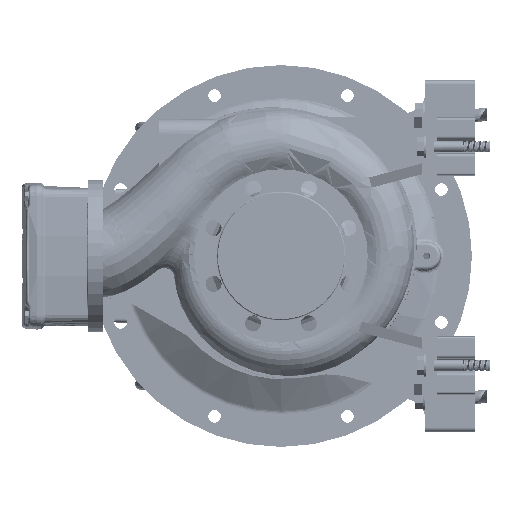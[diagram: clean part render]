
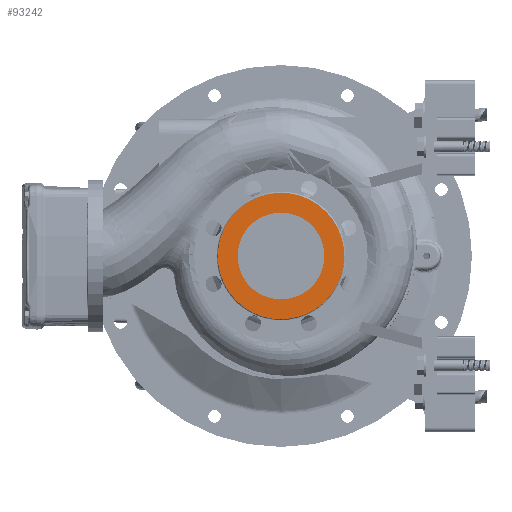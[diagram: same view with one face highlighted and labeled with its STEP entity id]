
A CAD part, left-side view. The second image highlights one B-rep face of the part: STEP entity #93242.
In plain terms, the highlighted planar face has unit normal (-1, 0, 0).
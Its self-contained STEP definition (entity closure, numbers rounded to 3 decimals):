
#309 = CARTESIAN_POINT ( 'NONE',  ( -140., -50.883, -76.151 ) ) ;
#715 = CARTESIAN_POINT ( 'NONE',  ( -140., 0., -62.5 ) ) ;
#2592 = AXIS2_PLACEMENT_3D ( 'NONE', #85408, #17370, #101494 ) ;
#6172 = B_SPLINE_CURVE_WITH_KNOTS ( 'NONE', 3,
 ( #57279, #111901, #43865, #30445, #30611, #109255, #140526, #48258, #153966, #100216, #141405, #33946, #75149, #129741, #89437, #44759, #34837, #71601, #142291, #155725, #112796, #126217, #116323, #127977 ),
 .UNSPECIFIED., .F., .F.,
 ( 4, 1, 1, 1, 1, 1, 1, 1, 1, 1, 1, 1, 1, 1, 1, 1, 1, 1, 1, 1, 1, 4 ),
 ( 0., 0.009, 0.018, 0.027, 0.036, 0.045, 0.058, 0.072, 0.081, 0.09, 0.099, 0.108, 0.126, 0.143, 0.161, 0.179, 0.197, 0.215, 0.233, 0.251, 0.269, 0.287 ),
 .UNSPECIFIED. ) ;
#8793 = EDGE_CURVE ( 'NONE', #176708, #79074, #154203, .T. ) ;
#11998 = CARTESIAN_POINT ( 'NONE',  ( -140., 90.707, -8.934 ) ) ;
#12873 = CARTESIAN_POINT ( 'NONE',  ( -140., 84.208, -34.88 ) ) ;
#13759 = CARTESIAN_POINT ( 'NONE',  ( -140., 91., 0. ) ) ;
#17370 = DIRECTION ( 'NONE',  ( -1., 0., 0. ) ) ;
#18954 = ORIENTED_EDGE ( 'NONE', *, *, #119524, .F. ) ;
#21557 = PLANE ( 'NONE',  #149359 ) ;
#25344 = CARTESIAN_POINT ( 'NONE',  ( -140., 91., 0. ) ) ;
#25450 = CARTESIAN_POINT ( 'NONE',  ( -140., 65.552, -63.451 ) ) ;
#30445 = CARTESIAN_POINT ( 'NONE',  ( -140., 89.395, 17.782 ) ) ;
#30611 = CARTESIAN_POINT ( 'NONE',  ( -140., 87.222, 26.458 ) ) ;
#33946 = CARTESIAN_POINT ( 'NONE',  ( -140., 42.966, 80.384 ) ) ;
#34837 = CARTESIAN_POINT ( 'NONE',  ( -140., -35.049, 84.615 ) ) ;
#36699 = EDGE_CURVE ( 'NONE', #129647, #39993, #6172, .T. ) ;
#36750 = FACE_BOUND ( 'NONE', #39603, .T. ) ;
#37739 = AXIS2_PLACEMENT_3D ( 'NONE', #120017, #92252, #40265 ) ;
#39603 = EDGE_LOOP ( 'NONE', ( #18954, #168910 ) ) ;
#39746 = CARTESIAN_POINT ( 'NONE',  ( -140., 42.966, -80.384 ) ) ;
#39993 = VERTEX_POINT ( 'NONE', #131370 ) ;
#40265 = DIRECTION ( 'NONE',  ( 0., 0., 1. ) ) ;
#41527 = CARTESIAN_POINT ( 'NONE',  ( -140., -84.615, -35.049 ) ) ;
#42884 = EDGE_CURVE ( 'NONE', #39993, #129647, #67028, .T. ) ;
#43285 = CARTESIAN_POINT ( 'NONE',  ( -140., 0.001, -91.586 ) ) ;
#43865 = CARTESIAN_POINT ( 'NONE',  ( -140., 90.707, 8.934 ) ) ;
#44759 = CARTESIAN_POINT ( 'NONE',  ( -140., -17.868, 89.827 ) ) ;
#48258 = CARTESIAN_POINT ( 'NONE',  ( -140., 73.357, 54.405 ) ) ;
#57279 = CARTESIAN_POINT ( 'NONE',  ( -140., 91., 0. ) ) ;
#66629 = CARTESIAN_POINT ( 'NONE',  ( -140., 91., -2.977 ) ) ;
#67028 = B_SPLINE_CURVE_WITH_KNOTS ( 'NONE', 3,
 ( #82686, #83560, #81813, #41527, #138195, #121266, #309, #107814, #175835, #43285, #97896, #80933, #39746, #136423, #94330, #25450, #151614, #80055, #12873, #150739, #69270, #11998, #66629, #13759 ),
 .UNSPECIFIED., .F., .F.,
 ( 4, 1, 1, 1, 1, 1, 1, 1, 1, 1, 1, 1, 1, 1, 1, 1, 1, 1, 1, 1, 1, 4 ),
 ( 0., 0.018, 0.036, 0.054, 0.072, 0.09, 0.108, 0.126, 0.144, 0.161, 0.179, 0.188, 0.197, 0.206, 0.215, 0.229, 0.242, 0.251, 0.26, 0.269, 0.278, 0.287 ),
 .UNSPECIFIED. ) ;
#69270 = CARTESIAN_POINT ( 'NONE',  ( -140., 89.395, -17.782 ) ) ;
#71601 = CARTESIAN_POINT ( 'NONE',  ( -140., -50.883, 76.151 ) ) ;
#75149 = CARTESIAN_POINT ( 'NONE',  ( -140., 32.194, 85.479 ) ) ;
#77059 = DIRECTION ( 'NONE',  ( 0., 0., -1. ) ) ;
#79074 = VERTEX_POINT ( 'NONE', #142887 ) ;
#80055 = CARTESIAN_POINT ( 'NONE',  ( -140., 79.748, -44.311 ) ) ;
#80933 = CARTESIAN_POINT ( 'NONE',  ( -140., 32.194, -85.479 ) ) ;
#81813 = CARTESIAN_POINT ( 'NONE',  ( -140., -89.827, -17.868 ) ) ;
#82686 = CARTESIAN_POINT ( 'NONE',  ( -140., -91., 0. ) ) ;
#83054 = CIRCLE ( 'NONE', #37739, 62.5 ) ;
#83560 = CARTESIAN_POINT ( 'NONE',  ( -140., -91., -5.956 ) ) ;
#85408 = CARTESIAN_POINT ( 'NONE',  ( -140., 0., 0. ) ) ;
#89437 = CARTESIAN_POINT ( 'NONE',  ( -140., 0.001, 91.586 ) ) ;
#89583 = CARTESIAN_POINT ( 'NONE',  ( -140., -92.092, 92.181 ) ) ;
#91346 = DIRECTION ( 'NONE',  ( 1., 0., 0. ) ) ;
#92252 = DIRECTION ( 'NONE',  ( -1., 0., 0. ) ) ;
#93242 = ADVANCED_FACE ( 'NONE', ( #117344, #36750 ), #21557, .F. ) ;
#94330 = CARTESIAN_POINT ( 'NONE',  ( -140., 57.823, -70.457 ) ) ;
#97896 = CARTESIAN_POINT ( 'NONE',  ( -140., 17.866, -89.828 ) ) ;
#100216 = CARTESIAN_POINT ( 'NONE',  ( -140., 57.823, 70.457 ) ) ;
#101494 = DIRECTION ( 'NONE',  ( 0., 0., 1. ) ) ;
#107814 = CARTESIAN_POINT ( 'NONE',  ( -140., -35.049, -84.615 ) ) ;
#109255 = CARTESIAN_POINT ( 'NONE',  ( -140., 84.208, 34.88 ) ) ;
#111901 = CARTESIAN_POINT ( 'NONE',  ( -140., 91., 2.977 ) ) ;
#112796 = CARTESIAN_POINT ( 'NONE',  ( -140., -84.615, 35.049 ) ) ;
#116323 = CARTESIAN_POINT ( 'NONE',  ( -140., -91., 5.956 ) ) ;
#117344 = FACE_OUTER_BOUND ( 'NONE', #141067, .T. ) ;
#119524 = EDGE_CURVE ( 'NONE', #79074, #176708, #83054, .T. ) ;
#120017 = CARTESIAN_POINT ( 'NONE',  ( -140., 0., 0. ) ) ;
#121266 = CARTESIAN_POINT ( 'NONE',  ( -140., -64.762, -64.762 ) ) ;
#126217 = CARTESIAN_POINT ( 'NONE',  ( -140., -89.827, 17.868 ) ) ;
#127977 = CARTESIAN_POINT ( 'NONE',  ( -140., -91., 0. ) ) ;
#129647 = VERTEX_POINT ( 'NONE', #25344 ) ;
#129741 = CARTESIAN_POINT ( 'NONE',  ( -140., 17.866, 89.828 ) ) ;
#131370 = CARTESIAN_POINT ( 'NONE',  ( -140., -91., 0. ) ) ;
#136423 = CARTESIAN_POINT ( 'NONE',  ( -140., 50.638, -75.785 ) ) ;
#138195 = CARTESIAN_POINT ( 'NONE',  ( -140., -76.151, -50.883 ) ) ;
#140526 = CARTESIAN_POINT ( 'NONE',  ( -140., 79.748, 44.311 ) ) ;
#141067 = EDGE_LOOP ( 'NONE', ( #161051, #143484 ) ) ;
#141405 = CARTESIAN_POINT ( 'NONE',  ( -140., 50.638, 75.785 ) ) ;
#142291 = CARTESIAN_POINT ( 'NONE',  ( -140., -64.762, 64.762 ) ) ;
#142887 = CARTESIAN_POINT ( 'NONE',  ( -140., 0., 62.5 ) ) ;
#143484 = ORIENTED_EDGE ( 'NONE', *, *, #36699, .F. ) ;
#149359 = AXIS2_PLACEMENT_3D ( 'NONE', #89583, #91346, #77059 ) ;
#150739 = CARTESIAN_POINT ( 'NONE',  ( -140., 87.222, -26.458 ) ) ;
#151614 = CARTESIAN_POINT ( 'NONE',  ( -140., 73.357, -54.405 ) ) ;
#153966 = CARTESIAN_POINT ( 'NONE',  ( -140., 65.552, 63.451 ) ) ;
#154203 = CIRCLE ( 'NONE', #2592, 62.5 ) ;
#155725 = CARTESIAN_POINT ( 'NONE',  ( -140., -76.151, 50.883 ) ) ;
#161051 = ORIENTED_EDGE ( 'NONE', *, *, #42884, .F. ) ;
#168910 = ORIENTED_EDGE ( 'NONE', *, *, #8793, .F. ) ;
#175835 = CARTESIAN_POINT ( 'NONE',  ( -140., -17.868, -89.827 ) ) ;
#176708 = VERTEX_POINT ( 'NONE', #715 ) ;
